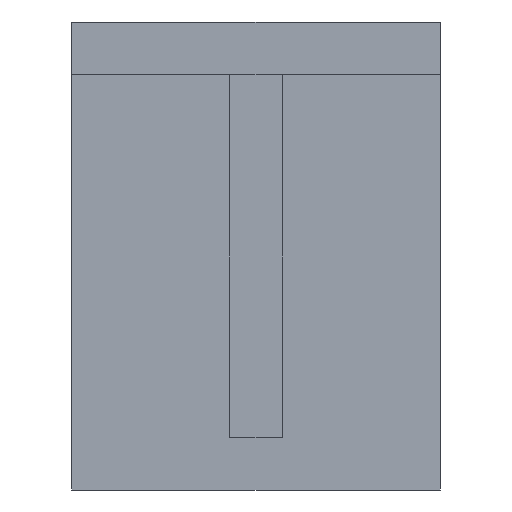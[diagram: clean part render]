
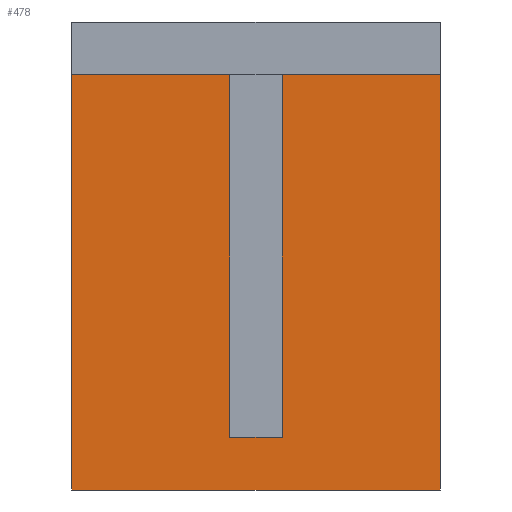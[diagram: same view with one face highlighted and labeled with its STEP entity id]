
A CAD part, left-side view. The second image highlights one B-rep face of the part: STEP entity #478.
In plain terms, the highlighted planar face has unit normal (-1, 0, 0).
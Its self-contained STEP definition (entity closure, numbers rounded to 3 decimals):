
#34=FACE_OUTER_BOUND('',#59,.T.);
#59=EDGE_LOOP('',(#347,#348,#349,#350,#351,#352,#353,#354));
#92=LINE('',#687,#154);
#96=LINE('',#695,#158);
#99=LINE('',#701,#161);
#103=LINE('',#709,#165);
#104=LINE('',#711,#166);
#105=LINE('',#713,#167);
#106=LINE('',#715,#168);
#107=LINE('',#716,#169);
#154=VECTOR('',#561,10.);
#158=VECTOR('',#567,10.);
#161=VECTOR('',#572,10.);
#165=VECTOR('',#580,10.);
#166=VECTOR('',#581,10.);
#167=VECTOR('',#582,10.);
#168=VECTOR('',#583,10.);
#169=VECTOR('',#584,10.);
#213=VERTEX_POINT('',#685);
#214=VERTEX_POINT('',#686);
#217=VERTEX_POINT('',#694);
#219=VERTEX_POINT('',#700);
#221=VERTEX_POINT('',#708);
#222=VERTEX_POINT('',#710);
#223=VERTEX_POINT('',#712);
#224=VERTEX_POINT('',#714);
#260=EDGE_CURVE('',#213,#214,#92,.T.);
#264=EDGE_CURVE('',#217,#213,#96,.T.);
#267=EDGE_CURVE('',#219,#217,#99,.T.);
#271=EDGE_CURVE('',#214,#221,#103,.T.);
#272=EDGE_CURVE('',#222,#221,#104,.T.);
#273=EDGE_CURVE('',#222,#223,#105,.T.);
#274=EDGE_CURVE('',#223,#224,#106,.T.);
#275=EDGE_CURVE('',#224,#219,#107,.T.);
#347=ORIENTED_EDGE('',*,*,#267,.T.);
#348=ORIENTED_EDGE('',*,*,#264,.T.);
#349=ORIENTED_EDGE('',*,*,#260,.T.);
#350=ORIENTED_EDGE('',*,*,#271,.T.);
#351=ORIENTED_EDGE('',*,*,#272,.F.);
#352=ORIENTED_EDGE('',*,*,#273,.T.);
#353=ORIENTED_EDGE('',*,*,#274,.T.);
#354=ORIENTED_EDGE('',*,*,#275,.T.);
#455=PLANE('',#517);
#478=ADVANCED_FACE('',(#34),#455,.T.);
#517=AXIS2_PLACEMENT_3D('',#707,#578,#579);
#561=DIRECTION('',(0.,0.,1.));
#567=DIRECTION('',(0.,1.,0.));
#572=DIRECTION('',(0.,0.,-1.));
#578=DIRECTION('center_axis',(-1.,0.,0.));
#579=DIRECTION('ref_axis',(0.,-1.,0.));
#580=DIRECTION('',(0.,1.,0.));
#581=DIRECTION('',(0.,0.,1.));
#582=DIRECTION('',(0.,-1.,0.));
#583=DIRECTION('',(0.,0.,1.));
#584=DIRECTION('',(0.,1.,0.));
#685=CARTESIAN_POINT('',(-12.35,1.,2.));
#686=CARTESIAN_POINT('',(-12.35,1.,15.8));
#687=CARTESIAN_POINT('',(-12.35,1.,1.));
#694=CARTESIAN_POINT('',(-12.35,-1.,2.));
#695=CARTESIAN_POINT('',(-12.35,3.,2.));
#700=CARTESIAN_POINT('',(-12.35,-1.,15.8));
#701=CARTESIAN_POINT('',(-12.35,-1.,7.9));
#707=CARTESIAN_POINT('Origin',(-12.35,7.,0.));
#708=CARTESIAN_POINT('',(-12.35,7.,15.8));
#709=CARTESIAN_POINT('',(-12.35,0.,15.8));
#710=CARTESIAN_POINT('',(-12.35,7.,0.));
#711=CARTESIAN_POINT('',(-12.35,7.,0.));
#712=CARTESIAN_POINT('',(-12.35,-7.,0.));
#713=CARTESIAN_POINT('',(-12.35,7.,0.));
#714=CARTESIAN_POINT('',(-12.35,-7.,15.8));
#715=CARTESIAN_POINT('',(-12.35,-7.,0.));
#716=CARTESIAN_POINT('',(-12.35,0.,15.8));
